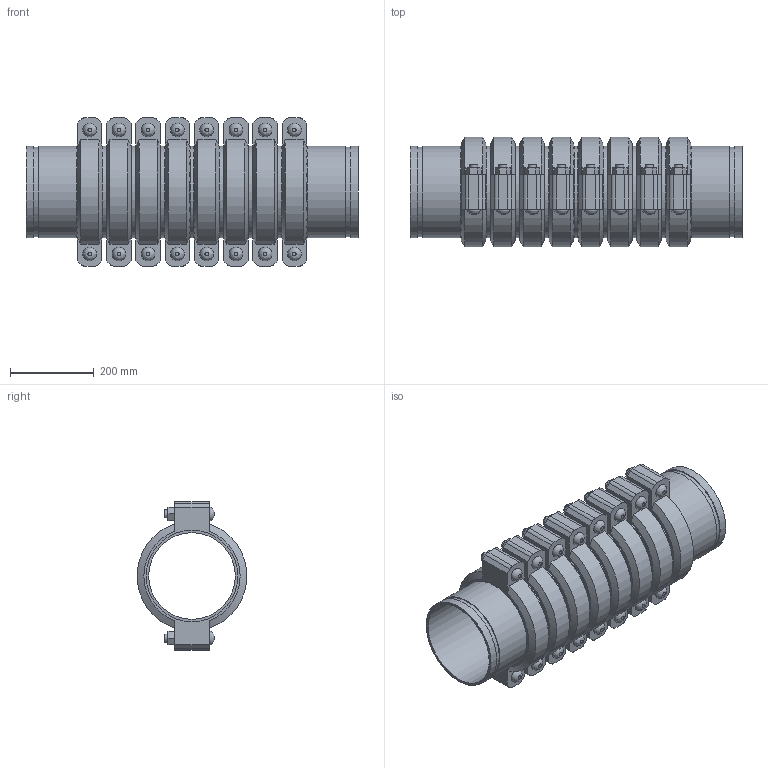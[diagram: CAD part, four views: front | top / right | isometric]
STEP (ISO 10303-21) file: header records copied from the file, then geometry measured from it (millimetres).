
FILE_DESCRIPTION(/* description */ ('VIC EXPANSION JOINT 8 COUPLINGS COMPRESSED STYLE 155 (OGS)','CAx-IF Rec.Pracs.---Representation and Presentation of Product Manufacturing Information (PMI)---4.0---2014-10-13'),/* implementation_level */ '2;1');
FILE_NAME(/* name */ 'C:\Users\kkamble\AppData\Roaming\Autodesk\ApplicationPlugins\Victaulic.Temp\A709\Victaulic_IPS_Expansion Joint_Compressed_8 Couplings_Style 155 (OGS)_8 (200).stp',/* time_stamp */ '2021-06-27T00:36:39+02:00',/* author */ ('kkamble'),/* organization */ ('Victaulic'),/* preprocessor_version */ 'ST-DEVELOPER v17.2',/* originating_system */ 'Autodesk Inventor 2019',/* authorisation */ '');
FILE_SCHEMA (('AP242_MANAGED_MODEL_BASED_3D_ENGINEERING_MIM_LF { 1 0 10303 442 1 1 4 }'));
Length unit declared in the file: inch
Products named in the file (4): 155-08.0; Nipple-08.0; Nipple-08.0_1; 075_8_Coup-08.0
Assembly tree (17 placements, depth 2):
  155-08.0
    Nipple-08.0  x2
    Nipple-08.0_1  x7
    075_8_Coup-08.0  x8
Bounding box: 793.75 x 261.72 x 354.84 mm (x, y, z)
Volume: 13833593.6 mm3; surface area: 2545915.3 mm2
Topology: 17 solids, 33 shells, 564 faces, 1334 edges, 936 vertices
Faces by surface type: plane 342, cylinder 174, cone 32, bspline 16
Full cylindrical faces by diameter (mm): 19.05 x32, 21.209 x16, 206.985 x9, 212.725 x8, 214.401 x18, 219.075 x43
Entity records: 2858 total; most frequent: CARTESIAN_POINT 501, DIRECTION 477, ORIENTED_EDGE 386, EDGE_CURVE 193, AXIS2_PLACEMENT_3D 192, VERTEX_POINT 138, EDGE_LOOP 107, LINE 93
